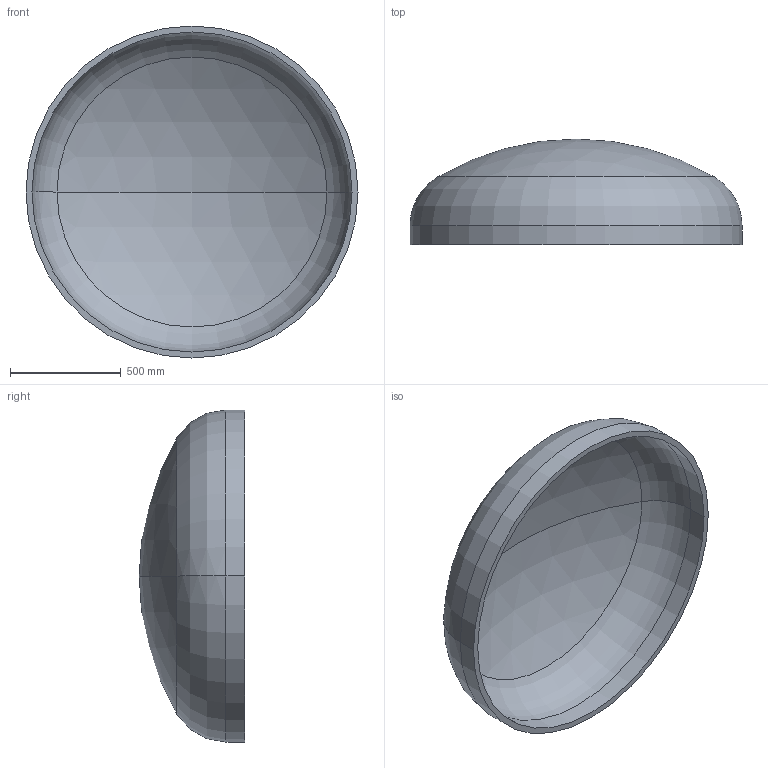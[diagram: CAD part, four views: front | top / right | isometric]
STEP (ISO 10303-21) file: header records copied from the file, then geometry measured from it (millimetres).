
FILE_DESCRIPTION (( 'STEP AP203' ), '1' );
FILE_NAME ('DIN 28013 Korbbogenform_-_Boden DIN 28013 - 1500 x 85 - I - s=27.step', '2016-07-01T10:41:15', ( '' ), ( '' ), 'SwSTEP 2.0', 'SolidWorks 2013', '' );
FILE_SCHEMA (( 'CONFIG_CONTROL_DESIGN' ));
Length unit declared in the file: millimetre
Products named in the file (1): DIN 28013 Korbbogenform_-_Boden DIN 28013 - 1500 x 85 - I - s=27
Bounding box: 1500 x 476.63 x 1500 mm (x, y, z)
Volume: 75097064.5 mm3; surface area: 5689214.8 mm2
Topology: 1 solids, 1 shells, 13 faces, 24 edges, 14 vertices
Faces by surface type: torus 4, cylinder 4, sphere 4, plane 1
Entity records: 407 total; most frequent: DIRECTION 72, CARTESIAN_POINT 52, ORIENTED_EDGE 48, AXIS2_PLACEMENT_3D 34, EDGE_CURVE 24, CIRCLE 20, VERTEX_POINT 14, EDGE_LOOP 14
